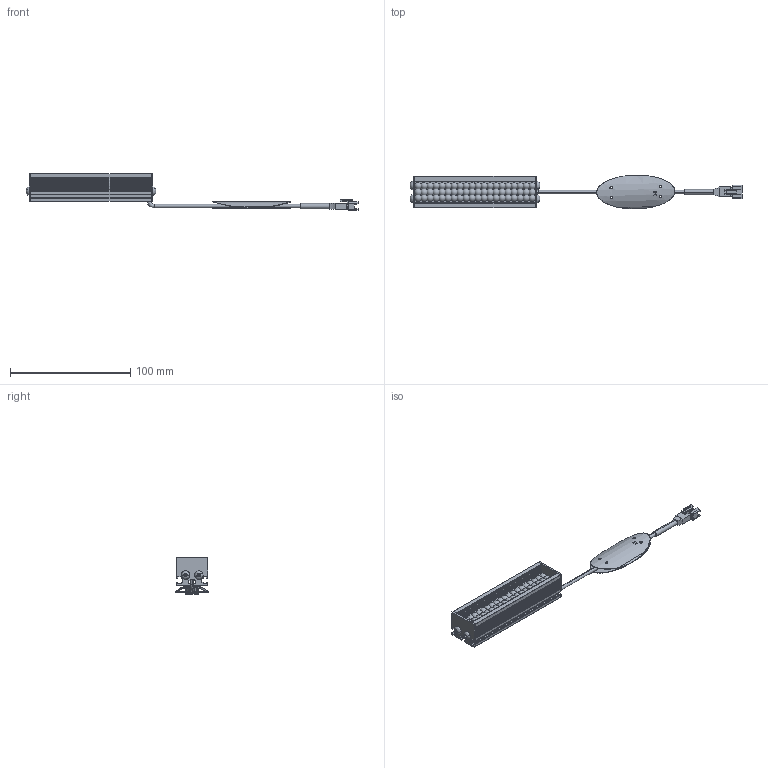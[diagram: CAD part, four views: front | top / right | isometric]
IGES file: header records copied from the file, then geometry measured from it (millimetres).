
Start section: 3D InterOp IGES (v. 2019 1.0.2), Spatial Corp. Copyright (c) 1999-2017.
Global section: file name: VBA-10015_DRAWING_3D.iges; native system: Spatial Corp.; preprocessor: 3D InterOp ACIS/IGES; author: Noname; organization: Noname; date: 20230914.095210; units: millimetre
Bounding box: 276 x 28 x 30.5 mm (x, y, z)
Surface area: 40500.6 mm2 (no closed solid volume)
Topology: 0 solids, 0 shells, 917 faces, 5248 edges, 5248 vertices
Faces by surface type: extrusion 529, revolution 382, bspline 6
